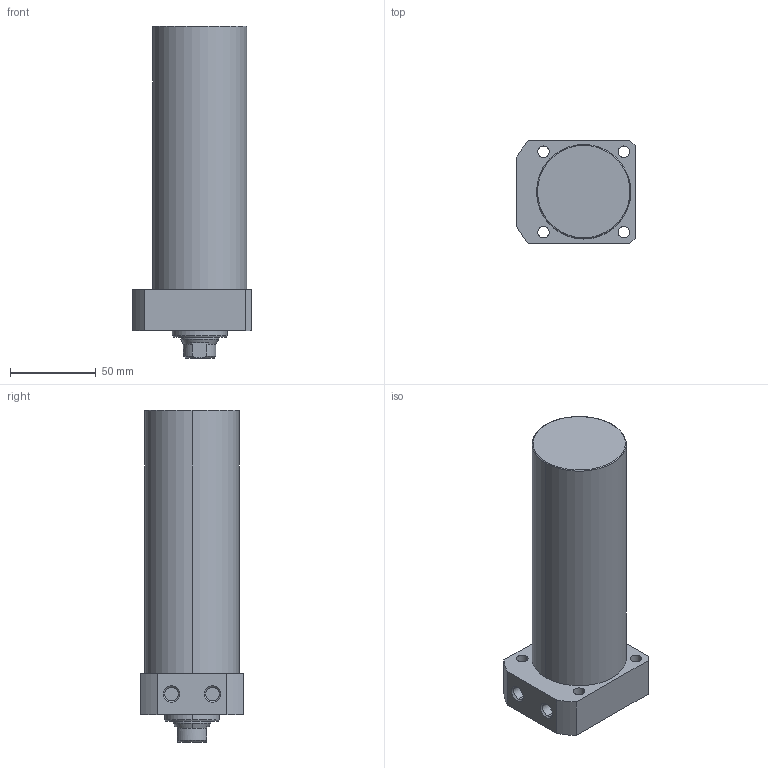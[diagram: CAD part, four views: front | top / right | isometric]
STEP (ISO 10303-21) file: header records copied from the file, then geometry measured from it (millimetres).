
FILE_DESCRIPTION (( 'STEP AP203' ), '1' );
FILE_NAME ('CLLR-055CA-125.STEP', '2019-12-17T11:40:15', ( '' ), ( '' ), 'SwSTEP 2.0', 'SolidWorks 2015', '' );
FILE_SCHEMA (( 'CONFIG_CONTROL_DESIGN' ));
Length unit declared in the file: millimetre
Products named in the file (1): CLLR-055CA-125
Bounding box: 69 x 60 x 194 mm (x, y, z)
Volume: 463505.2 mm3; surface area: 44896.3 mm2
Topology: 1 solids, 1 shells, 65 faces, 150 edges, 93 vertices
Faces by surface type: cylinder 29, plane 19, cone 15, torus 2
Entity records: 1959 total; most frequent: DIRECTION 348, CARTESIAN_POINT 347, ORIENTED_EDGE 296, EDGE_CURVE 148, AXIS2_PLACEMENT_3D 142, VERTEX_POINT 93, EDGE_LOOP 81, CIRCLE 76
